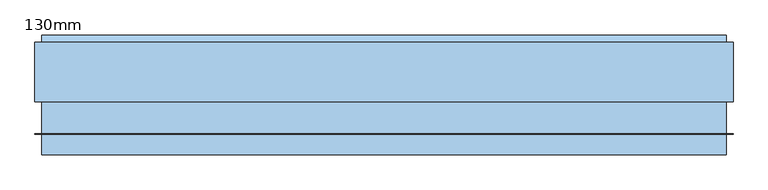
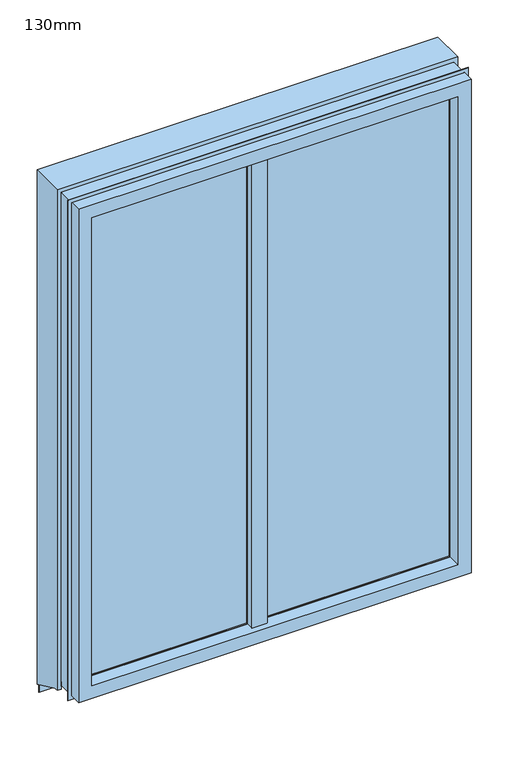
"""IFC4 building model written with IfcOpenShell, lengths in millimetres: window geometry, PihlaPRO MEK-A B : 130mm."""

from ifc_helpers import new_model, si_unit, frame, origin, place, context, project, spatial, polyline, outline, extrude, faceted_brep, source, transform, mapped, element, save


def window_130mm_3dce3136(model_context):
    return source(origin(), model_context, "Body", "SolidModel", [
        extrude(outline(polyline([(966.6999971, -87.6999978), (966.6999971, -91.6999978), (231.2999971, -91.6999978), (231.2999971, -87.6999978), (966.6999971, -87.6999978)])), frame((0.0, 0.0, 853.3), z_axis=(0.0, 0.0, 1.0), x_axis=(1.0, 0.0, 0.0)), (0.0, 0.0, 1.0), 1903.4),
        extrude(outline(polyline([(966.6999971, -65.6999978), (966.6999971, -69.6999978), (231.2999971, -69.6999978), (231.2999971, -65.6999978), (966.6999971, -65.6999978)])), frame((0.0, 0.0, 853.3), z_axis=(0.0, 0.0, 1.0), x_axis=(1.0, 0.0, 0.0)), (0.0, 0.0, 1.0), 1903.4),
        extrude(outline(polyline([(966.6999971, -43.6999978), (966.6999971, -47.6999978), (231.2999971, -47.6999978), (231.2999971, -43.6999978), (966.6999971, -43.6999978)])), frame((0.0, 0.0, 853.3), z_axis=(0.0, 0.0, 1.0), x_axis=(1.0, 0.0, 0.0)), (0.0, 0.0, 1.0), 1903.4),
        extrude(outline(polyline([(2756.7, 966.6999971), (2756.7, 231.2999971), (853.3, 231.2999971), (853.3, 966.6999971), (2756.7, 966.6999971)]), holes=[polyline([(863.3, 956.6999971), (863.3, 241.2999971), (2746.7, 241.2999971), (2746.7, 956.6999971), (863.3, 956.6999971)])]), frame((0.0, -65.6999978, 0.0), z_axis=(0.0, 1.0, 0.0), x_axis=(0.0, 0.0, 1.0)), (0.0, 0.0, 1.0), 18.0),
        extrude(outline(polyline([(2756.7, 966.6999971), (2756.7, 231.2999971), (853.3, 231.2999971), (853.3, 966.6999971), (2756.7, 966.6999971)]), holes=[polyline([(863.3, 956.6999971), (863.3, 241.2999971), (2746.7, 241.2999971), (2746.7, 956.6999971), (863.3, 956.6999971)])]), frame((0.0, -87.6999978, 0.0), z_axis=(0.0, 1.0, 0.0), x_axis=(0.0, 0.0, 1.0)), (0.0, 0.0, 1.0), 18.0),
        extrude(outline(polyline([(198.7000029, -87.6999978), (198.7000029, -91.6999978), (-446.6999971, -91.6999978), (-446.6999971, -87.6999978), (198.7000029, -87.6999978)])), frame((0.0, 0.0, 853.3), z_axis=(0.0, 0.0, 1.0), x_axis=(1.0, 0.0, 0.0)), (0.0, 0.0, 1.0), 1903.4),
        extrude(outline(polyline([(198.7000029, -65.6999978), (198.7000029, -69.6999978), (-446.6999971, -69.6999978), (-446.6999971, -65.6999978), (198.7000029, -65.6999978)])), frame((0.0, 0.0, 853.3), z_axis=(0.0, 0.0, 1.0), x_axis=(1.0, 0.0, 0.0)), (0.0, 0.0, 1.0), 1903.4),
        extrude(outline(polyline([(198.7000029, -43.6999978), (198.7000029, -47.6999978), (-446.6999971, -47.6999978), (-446.6999971, -43.6999978), (198.7000029, -43.6999978)])), frame((0.0, 0.0, 853.3), z_axis=(0.0, 0.0, 1.0), x_axis=(1.0, 0.0, 0.0)), (0.0, 0.0, 1.0), 1903.4),
        extrude(outline(polyline([(2756.7, 198.7000029), (2756.7, -446.6999971), (853.3, -446.6999971), (853.3, 198.7000029), (2756.7, 198.7000029)]), holes=[polyline([(863.3, 188.7000029), (863.3, -436.6999971), (2746.7, -436.6999971), (2746.7, 188.7000029), (863.3, 188.7000029)])]), frame((0.0, -65.6999978, 0.0), z_axis=(0.0, 1.0, 0.0), x_axis=(0.0, 0.0, 1.0)), (0.0, 0.0, 1.0), 18.0),
        extrude(outline(polyline([(2756.7, 198.7000029), (2756.7, -446.6999971), (853.3, -446.6999971), (853.3, 198.7000029), (2756.7, 198.7000029)]), holes=[polyline([(863.3, 188.7000029), (863.3, -436.6999971), (2746.7, -436.6999971), (2746.7, 188.7000029), (863.3, 188.7000029)])]), frame((0.0, -87.6999978, 0.0), z_axis=(0.0, 1.0, 0.0), x_axis=(0.0, 0.0, 1.0)), (0.0, 0.0, 1.0), 18.0),
        extrude(outline(polyline([(116.0224775, 743.5065933), (116.0224775, 698.5065933), (115.0224775, 698.5065933), (115.0224775, 742.869523), (-29.9775225, 810.4841335), (-29.9775225, 829.9667629), (-28.9775225, 829.9667629), (-28.9775225, 811.1212037), (116.0224775, 743.5065933)])), frame((-485.0, 0.0, 0.0), z_axis=(1.0, 0.0, 0.0), x_axis=(0.0, 1.0, 0.0)), (0.0, 0.0, 1.0), 1490.0),
        extrude(outline(polyline([(-28.9775225, 811.1212037), (-28.9775225, 829.9667629), (85.0224775, 776.8076899), (85.0224775, 757.9621307), (-28.9775225, 811.1212037)])), frame((1004.0, 0.0, 0.0), z_axis=(1.0, 0.0, 0.0), x_axis=(0.0, 1.0, 0.0)), (0.0, 0.0, 1.0), 1.0),
        extrude(outline(polyline([(-28.9775225, 811.1212037), (-28.9775225, 829.9667629), (85.0224775, 776.8076899), (85.0224775, 757.9621307), (-28.9775225, 811.1212037)])), frame((-485.0, 0.0, 0.0), z_axis=(1.0, 0.0, 0.0), x_axis=(0.0, 1.0, 0.0)), (0.0, 0.0, 1.0), 1.0),
        faceted_brep([(1020.0, 100.0, 2810.0), (1020.0, -30.0, 2810.0), (1020.0, -30.0, 800.0), (1020.0, -15.0, 800.0), (1020.0, 100.0, 746.3746193), (-500.0, 100.0, 2810.0), (-500.0, 100.0, 746.3746193), (-500.0, -15.0, 800.0), (-500.0, -30.0, 800.0), (-500.0, -30.0, 2810.0), (1005.0, -15.0, 800.0), (1005.0, 100.0, 746.3746193), (-485.0, 100.0, 746.3746193), (-485.0, -15.0, 800.0), (1005.0, 100.0, 2795.0), (-485.0, 100.0, 2795.0), (1005.0, -30.0, 2795.0), (1005.0, -30.0, 800.0), (-485.0, -30.0, 2795.0), (-485.0, -30.0, 800.0)], [[[0, 1, 2, 3, 4]], [[5, 6, 7, 8, 9]], [[4, 3, 10, 11]], [[7, 6, 12, 13]], [[0, 4, 11, 14, 15, 12, 6, 5]], [[1, 0, 5, 9]], [[16, 14, 11, 10, 17]], [[14, 16, 18, 15]], [[15, 18, 19, 13, 12]], [[2, 1, 9, 8, 19, 18, 16, 17]], [[3, 2, 17, 10]], [[8, 7, 13, 19]]]),
        extrude(outline(polyline([(2810.0, 1020.0), (2810.0, -500.0), (800.0, -500.0), (800.0, 1020.0), (2810.0, 1020.0)]), holes=[polyline([(815.0, 1005.0), (815.0, -485.0), (2795.0, -485.0), (2795.0, 1005.0), (815.0, 1005.0)])]), frame((0.0, -100.0, 0.0), z_axis=(0.0, 1.0, 0.0), x_axis=(0.0, 0.0, 1.0)), (0.0, 0.0, 1.0), 1.0),
        faceted_brep([(245.8494078, -95.0224773, 867.8494078), (247.2210339, -91.6999978, 869.2210339), (247.2210339, -91.6999978, 2740.7789661), (245.8494078, -95.0224773, 2742.1505922), (235.5000191, -91.6999978, 857.5000191), (235.5000191, -95.0224773, 857.5000191), (235.5000191, -95.0224773, 865.999999), (235.5000191, -95.0224773, 2744.000001), (235.5000191, -95.0224773, 2752.4999809), (235.5000191, -91.6999978, 2752.4999809), (950.7789661, -91.6999978, 2740.7789661), (952.1505922, -95.0224773, 2742.1505922), (962.4999809, -95.0224773, 2752.4999809), (962.4999809, -91.6999978, 2752.4999809), (950.7789661, -91.6999978, 869.2210339), (952.1505922, -95.0224773, 867.8494078), (962.4999809, -95.0224773, 2744.000001), (962.4999809, -95.0224773, 865.999999), (962.4999809, -95.0224773, 857.5000191), (962.4999809, -91.6999978, 857.5000191)], [[[0, 1, 2, 3]], [[4, 5, 6, 7, 8, 9]], [[3, 2, 10, 11]], [[9, 8, 12, 13]], [[11, 10, 14, 15]], [[13, 12, 16, 17, 18, 19]], [[4, 9, 13, 19], [2, 1, 14, 10]], [[1, 0, 15, 14]], [[12, 8, 7, 6, 5, 18, 17, 16], [0, 3, 11, 15]], [[5, 4, 19, 18]]]),
        faceted_brep([(221.8859048, -43.6999978, 2741.3560725), (219.6558626, -25.0013729, 2750.0753589), (219.6558626, -25.0013729, 859.9246411), (221.8859048, -43.6999978, 868.6439275), (202.4989525, -25.0013729, 2750.0753589), (202.4989525, -25.0013729, 859.9246411), (202.4989525, -43.6999978, 2741.3560725), (202.4989525, -43.6999978, 868.6439275), (243.7438651, -43.6999978, 2741.3560725), (243.7438651, -43.6999978, 868.6439275), (231.2934408, -16.9999966, 2753.806451), (231.2934408, -16.9999966, 856.193549), (198.7065207, -16.9999966, 2753.806451), (198.7065207, -16.9999966, 856.193549), (186.2560964, -43.6999978, 2741.3560725), (186.2560964, -43.6999978, 868.6439275)], [[[0, 1, 2, 3]], [[1, 4, 5, 2]], [[4, 6, 7, 5]], [[8, 0, 3, 9]], [[10, 8, 9, 11]], [[12, 10, 11, 13]], [[14, 12, 13, 15]], [[6, 14, 15, 7]], [[1, 0, 8, 10, 12, 14, 6, 4]], [[3, 2, 5, 7, 15, 13, 11, 9]]]),
        faceted_brep([(224.1812921, -51.6420932, 2763.8186646), (227.4999996, -52.8499981, 2760.4999971), (227.4999996, -52.8499981, 849.5000029), (224.1812921, -51.6420932, 846.1813354), (222.7719203, -51.1291263, 846.1201944), (222.7719203, -51.1291263, 2763.8798056), (221.8859048, -43.6999978, 2764.7652914), (221.8859048, -43.6999978, 845.2347086), (221.8859048, -43.6999978, 868.6439275), (219.6558626, -25.0013729, 859.9246411), (219.6558626, -25.0013729, 2750.0753589), (221.8859048, -43.6999978, 2741.3560725), (202.4989525, -25.0013729, 2750.0753589), (202.4989525, -25.0013729, 859.9246411), (202.4989525, -94.9999982, 2744.000001), (202.4989525, -94.9999982, 2760.4999971), (202.4989525, -52.8499981, 2760.4999971), (202.4989525, -51.6420932, 2763.8186646), (202.4989525, -43.6999978, 2764.7652914), (202.4989525, -43.6999978, 2741.3560725), (202.4989525, -43.6999978, 868.6439275), (202.4989525, -43.6999978, 845.2347086), (202.4989525, -51.6420932, 846.1813354), (202.4989525, -52.8499981, 849.5000029), (202.4989525, -94.9999982, 849.5000029), (202.4989525, -94.9999982, 865.999999), (185.9999859, -94.9999982, 2744.000001), (185.9999859, -94.9999982, 865.999999), (185.9999859, -122.9999953, 2744.000001), (185.9999859, -122.9999953, 865.999999), (243.9999948, -122.9999953, 2744.000001), (243.9999948, -122.9999953, 865.999999), (243.9999948, -94.9999982, 2744.000001), (243.9999948, -94.9999982, 865.999999), (227.4999996, -94.9999982, 2744.000001), (227.4999996, -94.9999982, 865.999999), (227.4999996, -94.9999982, 2760.4999971), (227.4999996, -94.9999982, 849.5000029)], [[[0, 1, 2, 3, 4, 5]], [[6, 5, 4, 7, 8, 9, 10, 11]], [[12, 10, 9, 13]], [[14, 15, 16, 17, 18, 19, 12, 13, 20, 21, 22, 23, 24, 25]], [[26, 14, 25, 27]], [[28, 26, 27, 29]], [[30, 28, 29, 31]], [[32, 30, 31, 33]], [[34, 32, 33, 35]], [[36, 34, 35, 37, 2, 1]], [[36, 15, 14, 34]], [[15, 36, 1, 16]], [[16, 1, 0, 17]], [[17, 0, 5, 6, 18]], [[18, 6, 11, 19]], [[19, 11, 10, 12]], [[34, 14, 26, 28, 30, 32]], [[24, 37, 35, 25]], [[37, 24, 23, 2]], [[2, 23, 22, 3]], [[3, 22, 21, 7, 4]], [[7, 21, 20, 8]], [[8, 20, 13, 9]], [[25, 35, 33, 31, 29, 27]]]),
        faceted_brep([(-432.1505922, -95.0224773, 867.8494078), (-430.7789661, -91.6999978, 869.2210339), (-430.7789661, -91.6999978, 2740.7789661), (-432.1505922, -95.0224773, 2742.1505922), (-442.4999809, -91.6999978, 857.5000191), (-442.4999809, -95.0224773, 857.5000191), (-442.4999809, -95.0224773, 865.999999), (-442.4999809, -95.0224773, 2744.000001), (-442.4999809, -95.0224773, 2752.4999809), (-442.4999809, -91.6999978, 2752.4999809), (182.7789661, -91.6999978, 2740.7789661), (184.1505922, -95.0224773, 2742.1505922), (194.4999809, -95.0224773, 2752.4999809), (194.4999809, -91.6999978, 2752.4999809), (182.7789661, -91.6999978, 869.2210339), (184.1505922, -95.0224773, 867.8494078), (194.4999809, -95.0224773, 2744.000001), (194.4999809, -95.0224773, 865.999999), (194.4999809, -95.0224773, 857.5000191), (194.4999809, -91.6999978, 857.5000191)], [[[0, 1, 2, 3]], [[4, 5, 6, 7, 8, 9]], [[3, 2, 10, 11]], [[9, 8, 12, 13]], [[11, 10, 14, 15]], [[13, 12, 16, 17, 18, 19]], [[4, 9, 13, 19], [2, 1, 14, 10]], [[1, 0, 15, 14]], [[12, 8, 7, 6, 5, 18, 17, 16], [0, 3, 11, 15]], [[5, 4, 19, 18]]]),
        faceted_brep([(-431.3560725, -43.6999978, 868.6439275), (-444.739062, -15.0, 855.260938), (-444.739062, -15.0, 2754.739062), (-431.3560725, -43.6999978, 2741.3560725), (-456.3982609, -29.9999969, 843.6017391), (-454.7653104, -43.6999978, 845.2346896), (-454.7653104, -43.6999978, 2764.7653104), (-456.3982609, -29.9999969, 2766.3982609), (-483.9999533, -29.9999969, 2793.9999533), (-483.9999533, -15.0, 2793.9999533), (-483.9999533, -15.0, 826.7669038), (-483.9999533, -17.0239709, 826.7669038), (-483.9999533, -18.1672323, 830.9561488), (-483.9999533, -24.9999979, 832.1609236), (-483.9999533, -24.9999979, 833.0000439), (-483.9999533, -29.9999969, 834.8198557), (964.739062, -15.0, 2754.739062), (951.3560725, -43.6999978, 2741.3560725), (974.7653104, -43.6999978, 2764.7653104), (976.3982609, -29.9999969, 2766.3982609), (1003.9999533, -29.9999969, 2793.9999533), (1003.9999533, -15.0, 2793.9999533), (964.739062, -15.0, 855.260938), (951.3560725, -43.6999978, 868.6439275), (974.7653104, -43.6999978, 845.2346896), (976.3982609, -29.9999969, 843.6017391), (1003.9999533, -29.9999969, 834.8198557), (1003.9999533, -24.9999979, 833.0000439), (1003.9999533, -24.9999979, 832.1609236), (1003.9999533, -18.1672323, 830.9561488), (1003.9999533, -17.0239709, 826.7669038), (1003.9999533, -15.0, 826.7669038)], [[[0, 1, 2, 3]], [[4, 5, 6, 7]], [[8, 9, 10, 11, 12, 13, 14, 15]], [[3, 2, 16, 17]], [[7, 6, 18, 19]], [[9, 8, 20, 21]], [[17, 16, 22, 23]], [[19, 18, 24, 25]], [[21, 20, 26, 27, 28, 29, 30, 31]], [[1, 0, 23, 22]], [[6, 5, 24, 18], [0, 3, 17, 23]], [[5, 4, 25, 24]], [[20, 8, 15, 26], [4, 7, 19, 25]], [[9, 21, 31, 10], [2, 1, 22, 16]], [[11, 30, 29, 12]], [[12, 29, 28, 13]], [[13, 28, 27, 14]], [[14, 27, 26, 15]], [[30, 11, 10, 31]]]),
        faceted_brep([(-434.000001, -145.0224743, 865.999999), (-434.000001, -94.9999982, 865.999999), (-434.000001, -94.9999982, 2744.000001), (-434.000001, -145.0224743, 2744.000001), (-485.0, -29.9999969, 815.0), (-485.0, -145.0224743, 815.0), (-485.0, -145.0224743, 2795.0), (-485.0, -29.9999969, 2795.0), (-466.9999561, -24.9999979, 833.0000439), (-465.1801443, -29.9999969, 834.8198557), (-465.1801443, -29.9999969, 2775.1801443), (-466.9999561, -24.9999979, 2776.9999561), (-453.8186646, -51.6420932, 846.1813354), (-456.9941642, -24.9999979, 843.0058358), (-456.9941642, -24.9999979, 2766.9941642), (-453.8186646, -51.6420932, 2763.8186646), (-450.4999971, -52.8499981, 849.5000029), (-450.4999971, -52.8499981, 2760.4999971), (-450.4999971, -94.9999982, 849.5000029), (-450.4999971, -94.9999982, 2760.4999971), (954.000001, -94.9999982, 2744.000001), (954.000001, -145.0224743, 2744.000001), (1005.0, -145.0224743, 2795.0), (1005.0, -29.9999969, 2795.0), (985.1801443, -29.9999969, 2775.1801443), (986.9999561, -24.9999979, 2776.9999561), (976.9941642, -24.9999979, 2766.9941642), (973.8186646, -51.6420932, 2763.8186646), (970.4999971, -52.8499981, 2760.4999971), (970.4999971, -94.9999982, 2760.4999971), (954.000001, -94.9999982, 865.999999), (954.000001, -145.0224743, 865.999999), (1005.0, -145.0224743, 815.0), (1005.0, -29.9999969, 815.0), (985.1801443, -29.9999969, 834.8198557), (986.9999561, -24.9999979, 833.0000439), (976.9941642, -24.9999979, 843.0058358), (973.8186646, -51.6420932, 846.1813354), (970.4999971, -52.8499981, 849.5000029), (970.4999971, -94.9999982, 849.5000029)], [[[0, 1, 2, 3]], [[4, 5, 6, 7]], [[8, 9, 10, 11]], [[12, 13, 14, 15]], [[16, 12, 15, 17]], [[18, 16, 17, 19]], [[3, 2, 20, 21]], [[7, 6, 22, 23]], [[11, 10, 24, 25]], [[15, 14, 26, 27]], [[17, 15, 27, 28]], [[19, 17, 28, 29]], [[21, 20, 30, 31]], [[23, 22, 32, 33]], [[25, 24, 34, 35]], [[27, 26, 36, 37]], [[28, 27, 37, 38]], [[29, 28, 38, 39]], [[31, 30, 1, 0]], [[5, 32, 22, 6], [3, 21, 31, 0]], [[33, 32, 5, 4]], [[7, 23, 33, 4], [9, 34, 24, 10]], [[35, 34, 9, 8]], [[11, 25, 35, 8], [13, 36, 26, 14]], [[37, 36, 13, 12]], [[38, 37, 12, 16]], [[39, 38, 16, 18]], [[19, 29, 39, 18], [1, 30, 20, 2]]]),
    ])


if __name__ == "__main__":
    model = new_model("IFC4")
    model_context = context("Model", 3, world=origin())
    ifc_project = project(units=[si_unit("LENGTHUNIT", "METRE", prefix="MILLI")], contexts=[model_context])
    site = spatial("IfcSite", under=ifc_project)
    building = spatial("IfcBuilding", under=site)
    placement = place(None, origin())
    window_130mm_shape = window_130mm_3dce3136(model_context)
    element("IfcWindow", 1, ObjectType="PihlaPRO MEK-A B : 130mm", at=placement, inside=building, context=model_context, shape_type="MappedRepresentation", body=[
        mapped(window_130mm_shape, transform((0.0, 0.0, 0.0), x_axis=(1.0, 0.0, 0.0), y_axis=(0.0, 1.0, 0.0), z_axis=(0.0, 0.0, 1.0))),
    ])
    save(model, "model.ifc")
